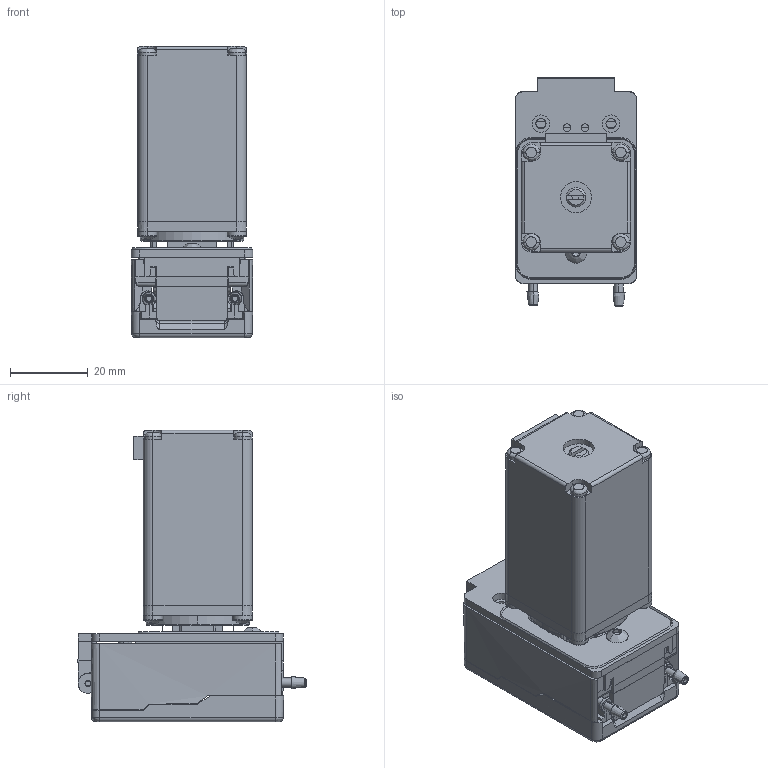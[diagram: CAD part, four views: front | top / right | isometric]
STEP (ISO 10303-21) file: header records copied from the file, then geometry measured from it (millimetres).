
FILE_DESCRIPTION (( 'STEP AP203' ), '1' );
FILE_NAME ('29QQ stepper R.STEP', '2021-05-23T12:05:10', ( '' ), ( '' ), 'SwSTEP 2.0', 'SolidWorks 2020', '' );
FILE_SCHEMA (( 'CONFIG_CONTROL_DESIGN' ));
Length unit declared in the file: millimetre
Products named in the file (1): 29QQ stepper R
Bounding box: 31.17 x 58.57 x 74.81 mm (x, y, z)
Surface area: 20516 mm2 (no closed solid volume)
Topology: 0 solids, 30 shells, 512 faces, 1783 edges, 1303 vertices
Faces by surface type: plane 260, cylinder 120, bspline 72, cone 60
Entity records: 25855 total; most frequent: CARTESIAN_POINT 11607, ORIENTED_EDGE 2860, DIRECTION 2540, EDGE_CURVE 1780, VERTEX_POINT 1303, LINE 994, VECTOR 994, AXIS2_PLACEMENT_3D 773
